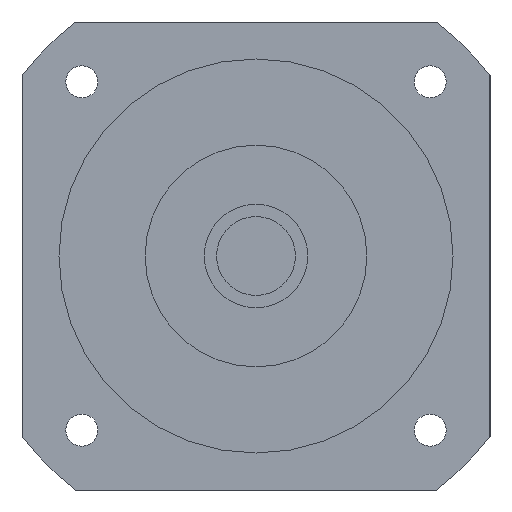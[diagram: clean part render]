
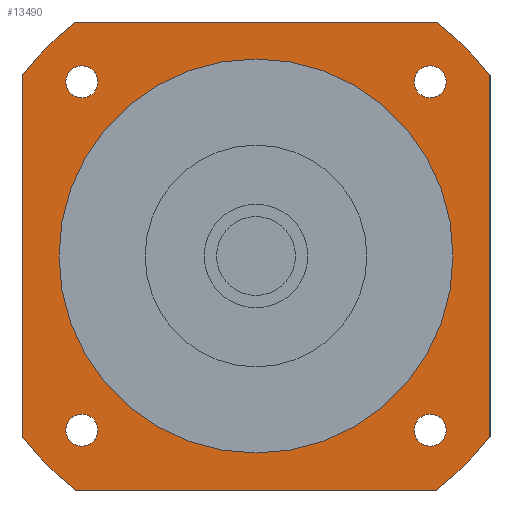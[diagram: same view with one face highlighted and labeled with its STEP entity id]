
A CAD part, left-side view. The second image highlights one B-rep face of the part: STEP entity #13490.
In plain terms, the highlighted planar face has unit normal (-1, 0, 0) as drawn and (0, 0, -1) by its records, which use the part's own axes.
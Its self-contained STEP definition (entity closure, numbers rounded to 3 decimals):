
#8680=CARTESIAN_POINT('',(-36.657,47.5,-43.2));
#8690=VERTEX_POINT('',#8680);
#8870=CARTESIAN_POINT('',(-47.5,36.657,-43.2));
#8880=VERTEX_POINT('',#8870);
#8910=CARTESIAN_POINT('',(0.,0.,
-43.2));
#8920=DIRECTION('',(0.,0.,-1.));
#8930=DIRECTION('',(1.,0.,0.));
#8940=AXIS2_PLACEMENT_3D('',#8910,#8920,#8930);
#8950=CIRCLE('',#8940,60.);
#8960=EDGE_CURVE('',#8880,#8690,#8950,.T.);
#9100=CARTESIAN_POINT('',(47.5,36.657,-43.2));
#9110=VERTEX_POINT('',#9100);
#9160=CARTESIAN_POINT('',(47.5,47.5,-43.2));
#9170=DIRECTION('',(0.,-1.,0.));
#9180=VECTOR('',#9170,1000.);
#9190=LINE('',#9160,#9180);
#9200=CARTESIAN_POINT('',(47.5,-36.657,-43.2));
#9210=VERTEX_POINT('',#9200);
#9220=EDGE_CURVE('',#9110,#9210,#9190,.T.);
#12010=CARTESIAN_POINT('',(-32.105,35.355,-43.2));
#12020=VERTEX_POINT('',#12010);
#12050=CARTESIAN_POINT('',(-35.355,35.355,-43.2));
#12060=DIRECTION('',(0.,0.,-1.));
#12070=DIRECTION('',(-1.,0.,0.));
#12080=AXIS2_PLACEMENT_3D('',#12050,#12060,#12070);
#12090=CIRCLE('',#12080,3.25);
#12100=CARTESIAN_POINT('',(-38.605,35.355,-43.2));
#12110=VERTEX_POINT('',#12100);
#12120=EDGE_CURVE('',#12110,#12020,#12090,.T.);
#12240=CARTESIAN_POINT('',(47.5,47.5,-43.2));
#12250=DIRECTION('',(0.,0.,-1.));
#12260=DIRECTION('',(1.,0.,0.));
#12270=AXIS2_PLACEMENT_3D('',#12240,#12250,#12260);
#12280=PLANE('',#12270);
#12290=ORIENTED_EDGE('',*,*,#12120,.F.);
#12300=EDGE_CURVE('',#12020,#12110,#12090,.T.);
#12310=ORIENTED_EDGE('',*,*,#12300,.F.);
#12320=EDGE_LOOP('',(#12310,#12290));
#12330=FACE_BOUND('',#12320,.T.);
#12340=CARTESIAN_POINT('',(35.355,35.355,-43.2));
#12350=DIRECTION('',(0.,0.,-1.));
#12360=DIRECTION('',(0.,1.,0.));
#12370=AXIS2_PLACEMENT_3D('',#12340,#12350,#12360);
#12380=CIRCLE('',#12370,3.25);
#12390=CARTESIAN_POINT('',(35.355,38.605,-43.2));
#12400=VERTEX_POINT('',#12390);
#12410=CARTESIAN_POINT('',(35.355,32.105,-43.2));
#12420=VERTEX_POINT('',#12410);
#12430=EDGE_CURVE('',#12400,#12420,#12380,.T.);
#12440=ORIENTED_EDGE('',*,*,#12430,.F.);
#12450=EDGE_CURVE('',#12420,#12400,#12380,.T.);
#12460=ORIENTED_EDGE('',*,*,#12450,.F.);
#12470=EDGE_LOOP('',(#12460,#12440));
#12480=FACE_BOUND('',#12470,.T.);
#12490=CARTESIAN_POINT('',(0.,0.,
-43.2));
#12500=DIRECTION('',(0.,0.,1.));
#12510=DIRECTION('',(0.,1.,0.));
#12520=AXIS2_PLACEMENT_3D('',#12490,#12500,#12510);
#12530=CIRCLE('',#12520,40.);
#12540=CARTESIAN_POINT('',(-40.,0.,-43.2));
#12550=VERTEX_POINT('',#12540);
#12560=CARTESIAN_POINT('',(40.,0.,-43.2));
#12570=VERTEX_POINT('',#12560);
#12580=EDGE_CURVE('',#12550,#12570,#12530,.T.);
#12590=ORIENTED_EDGE('',*,*,#12580,.T.);
#12600=CARTESIAN_POINT('',(0.,40.,-43.2));
#12610=VERTEX_POINT('',#12600);
#12620=EDGE_CURVE('',#12610,#12550,#12530,.T.);
#12630=ORIENTED_EDGE('',*,*,#12620,.T.);
#12640=EDGE_CURVE('',#12570,#12610,#12530,.T.);
#12650=ORIENTED_EDGE('',*,*,#12640,.T.);
#12660=EDGE_LOOP('',(#12650,#12630,#12590));
#12670=FACE_BOUND('',#12660,.T.);
#12680=CARTESIAN_POINT('',(35.355,-35.355,-43.2));
#12690=DIRECTION('',(0.,0.,-1.));
#12700=DIRECTION('',(1.,0.,0.));
#12710=AXIS2_PLACEMENT_3D('',#12680,#12690,#12700);
#12720=CIRCLE('',#12710,3.25);
#12730=CARTESIAN_POINT('',(38.605,-35.355,-43.2));
#12740=VERTEX_POINT('',#12730);
#12750=CARTESIAN_POINT('',(32.105,-35.355,-43.2));
#12760=VERTEX_POINT('',#12750);
#12770=EDGE_CURVE('',#12740,#12760,#12720,.T.);
#12780=ORIENTED_EDGE('',*,*,#12770,.F.);
#12790=EDGE_CURVE('',#12760,#12740,#12720,.T.);
#12800=ORIENTED_EDGE('',*,*,#12790,.F.);
#12810=EDGE_LOOP('',(#12800,#12780));
#12820=FACE_BOUND('',#12810,.T.);
#12830=CARTESIAN_POINT('',(-35.355,-35.355,-43.2));
#12840=DIRECTION('',(0.,0.,-1.));
#12850=DIRECTION('',(0.,-1.,0.));
#12860=AXIS2_PLACEMENT_3D('',#12830,#12840,#12850);
#12870=CIRCLE('',#12860,3.25);
#12880=CARTESIAN_POINT('',(-35.355,-38.605,-43.2));
#12890=VERTEX_POINT('',#12880);
#12900=CARTESIAN_POINT('',(-35.355,-32.105,-43.2));
#12910=VERTEX_POINT('',#12900);
#12920=EDGE_CURVE('',#12890,#12910,#12870,.T.);
#12930=ORIENTED_EDGE('',*,*,#12920,.F.);
#12940=EDGE_CURVE('',#12910,#12890,#12870,.T.);
#12950=ORIENTED_EDGE('',*,*,#12940,.F.);
#12960=EDGE_LOOP('',(#12950,#12930));
#12970=FACE_BOUND('',#12960,.T.);
#12980=CARTESIAN_POINT('',(-47.5,47.5,-43.2));
#12990=DIRECTION('',(1.,0.,0.));
#13000=VECTOR('',#12990,1000.);
#13010=LINE('',#12980,#13000);
#13020=CARTESIAN_POINT('',(36.657,47.5,-43.2));
#13030=VERTEX_POINT('',#13020);
#13040=EDGE_CURVE('',#8690,#13030,#13010,.T.);
#13050=ORIENTED_EDGE('',*,*,#13040,.T.);
#13060=ORIENTED_EDGE('',*,*,#8960,.T.);
#13070=CARTESIAN_POINT('',(-47.5,-47.5,-43.2));
#13080=DIRECTION('',(0.,1.,0.));
#13090=VECTOR('',#13080,1000.);
#13100=LINE('',#13070,#13090);
#13110=CARTESIAN_POINT('',(-47.5,-36.657,-43.2));
#13120=VERTEX_POINT('',#13110);
#13130=EDGE_CURVE('',#13120,#8880,#13100,.T.);
#13140=ORIENTED_EDGE('',*,*,#13130,.T.);
#13150=CARTESIAN_POINT('',(0.,0.,
-43.2));
#13160=DIRECTION('',(0.,0.,-1.));
#13170=DIRECTION('',(1.,0.,0.));
#13180=AXIS2_PLACEMENT_3D('',#13150,#13160,#13170);
#13190=CIRCLE('',#13180,60.);
#13200=CARTESIAN_POINT('',(-36.657,-47.5,-43.2));
#13210=VERTEX_POINT('',#13200);
#13220=EDGE_CURVE('',#13210,#13120,#13190,.T.);
#13230=ORIENTED_EDGE('',*,*,#13220,.T.);
#13240=CARTESIAN_POINT('',(47.5,-47.5,-43.2));
#13250=DIRECTION('',(-1.,0.,0.));
#13260=VECTOR('',#13250,1000.);
#13270=LINE('',#13240,#13260);
#13280=CARTESIAN_POINT('',(36.657,-47.5,-43.2));
#13290=VERTEX_POINT('',#13280);
#13300=EDGE_CURVE('',#13290,#13210,#13270,.T.);
#13310=ORIENTED_EDGE('',*,*,#13300,.T.);
#13320=CARTESIAN_POINT('',(0.,0.,
-43.2));
#13330=DIRECTION('',(0.,0.,-1.));
#13340=DIRECTION('',(1.,0.,0.));
#13350=AXIS2_PLACEMENT_3D('',#13320,#13330,#13340);
#13360=CIRCLE('',#13350,60.);
#13370=EDGE_CURVE('',#9210,#13290,#13360,.T.);
#13380=ORIENTED_EDGE('',*,*,#13370,.T.);
#13390=ORIENTED_EDGE('',*,*,#9220,.T.);
#13400=CARTESIAN_POINT('',(0.,0.,
-43.2));
#13410=DIRECTION('',(0.,0.,-1.));
#13420=DIRECTION('',(1.,0.,0.));
#13430=AXIS2_PLACEMENT_3D('',#13400,#13410,#13420);
#13440=CIRCLE('',#13430,60.);
#13450=EDGE_CURVE('',#13030,#9110,#13440,.T.);
#13460=ORIENTED_EDGE('',*,*,#13450,.T.);
#13470=EDGE_LOOP('',(#13460,#13390,#13380,#13310,#13230,#13140,#13060,
#13050));
#13480=FACE_OUTER_BOUND('',#13470,.T.);
#13490=ADVANCED_FACE('',(#12330,#12480,#12670,#12820,#12970,#13480),
#12280,.T.);
